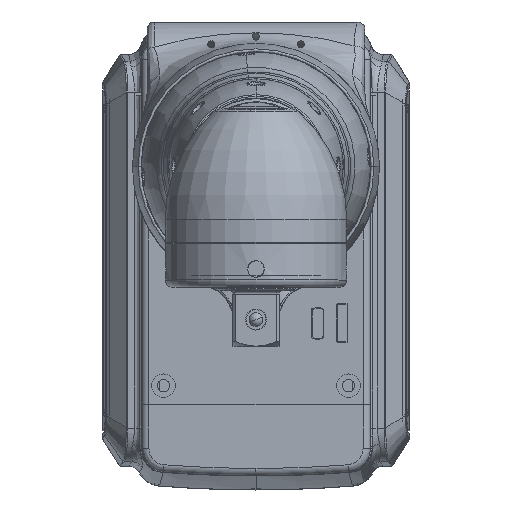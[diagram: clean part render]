
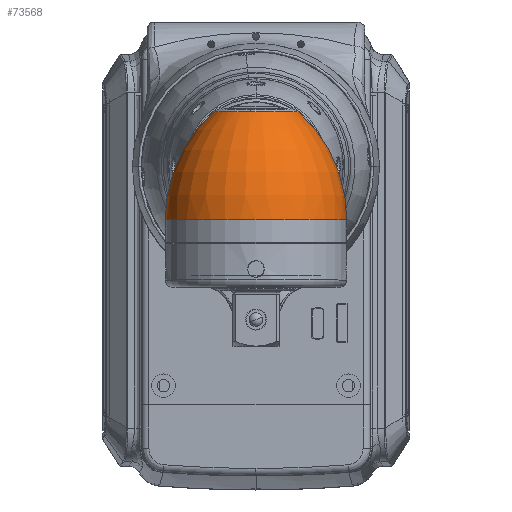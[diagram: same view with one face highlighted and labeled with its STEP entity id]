
A CAD part, top view. The second image highlights one B-rep face of the part: STEP entity #73568.
In plain terms, the highlighted toroidal (fillet/blend) face has major radius 15 mm and minor radius 40 mm.
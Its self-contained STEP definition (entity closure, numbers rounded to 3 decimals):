
#39 = DIRECTION ( 'NONE',  ( -1., 0., 0. ) ) ;
#2287 = ORIENTED_EDGE ( 'NONE', *, *, #25508, .T. ) ;
#3062 = CIRCLE ( 'NONE', #67936, 40. ) ;
#5728 = CARTESIAN_POINT ( 'NONE',  ( -11.761, 14.73, 573.561 ) ) ;
#7447 = ORIENTED_EDGE ( 'NONE', *, *, #95454, .F. ) ;
#16383 = CARTESIAN_POINT ( 'NONE',  ( 0., -15., 573.561 ) ) ;
#17505 = DIRECTION ( 'NONE',  ( 0., -1., 0. ) ) ;
#17966 = CARTESIAN_POINT ( 'NONE',  ( -25., -15., 573.561 ) ) ;
#23377 = ORIENTED_EDGE ( 'NONE', *, *, #114006, .F. ) ;
#25508 = EDGE_CURVE ( 'NONE', #58289, #40227, #3062, .T. ) ;
#25709 = ORIENTED_EDGE ( 'NONE', *, *, #56358, .T. ) ;
#26351 = CIRCLE ( 'NONE', #39325, 40. ) ;
#26808 = EDGE_LOOP ( 'NONE', ( #7447, #25709, #2287, #23377 ) ) ;
#28580 = CIRCLE ( 'NONE', #48934, 25. ) ;
#30077 = AXIS2_PLACEMENT_3D ( 'NONE', #93502, #33124, #39 ) ;
#31143 = VERTEX_POINT ( 'NONE', #71091 ) ;
#33124 = DIRECTION ( 'NONE',  ( 0., -1., 0. ) ) ;
#36686 = DIRECTION ( 'NONE',  ( 0., 0., -1. ) ) ;
#39325 = AXIS2_PLACEMENT_3D ( 'NONE', #45947, #36686, #55813 ) ;
#40227 = VERTEX_POINT ( 'NONE', #17966 ) ;
#45947 = CARTESIAN_POINT ( 'NONE',  ( -15., -15., 573.561 ) ) ;
#46440 = CARTESIAN_POINT ( 'NONE',  ( 0., 14.73, 573.561 ) ) ;
#48934 = AXIS2_PLACEMENT_3D ( 'NONE', #16383, #51767, #87168 ) ;
#51644 = CIRCLE ( 'NONE', #84997, 11.761 ) ;
#51767 = DIRECTION ( 'NONE',  ( 0., -1., 0. ) ) ;
#54559 = DIRECTION ( 'NONE',  ( 0., -1., 0. ) ) ;
#55813 = DIRECTION ( 'NONE',  ( 0., 1., 0. ) ) ;
#56358 = EDGE_CURVE ( 'NONE', #83667, #58289, #51644, .T. ) ;
#58289 = VERTEX_POINT ( 'NONE', #5728 ) ;
#63740 = CARTESIAN_POINT ( 'NONE',  ( 11.761, 14.73, 573.561 ) ) ;
#63851 = DIRECTION ( 'NONE',  ( -1., 0., 0. ) ) ;
#67936 = AXIS2_PLACEMENT_3D ( 'NONE', #99814, #73125, #54559 ) ;
#71091 = CARTESIAN_POINT ( 'NONE',  ( 25., -15., 573.561 ) ) ;
#73125 = DIRECTION ( 'NONE',  ( 0., 0., 1. ) ) ;
#73568 = ADVANCED_FACE ( 'NONE', ( #110343 ), #74578, .T. ) ;
#74578 = TOROIDAL_SURFACE ( 'NONE', #30077, -15., 40. ) ;
#83667 = VERTEX_POINT ( 'NONE', #63740 ) ;
#84997 = AXIS2_PLACEMENT_3D ( 'NONE', #46440, #17505, #63851 ) ;
#87168 = DIRECTION ( 'NONE',  ( -1., 0., 0. ) ) ;
#93502 = CARTESIAN_POINT ( 'NONE',  ( 0., -15., 573.561 ) ) ;
#95454 = EDGE_CURVE ( 'NONE', #83667, #31143, #26351, .T. ) ;
#99814 = CARTESIAN_POINT ( 'NONE',  ( 15., -15., 573.561 ) ) ;
#110343 = FACE_OUTER_BOUND ( 'NONE', #26808, .T. ) ;
#114006 = EDGE_CURVE ( 'NONE', #31143, #40227, #28580, .T. ) ;
